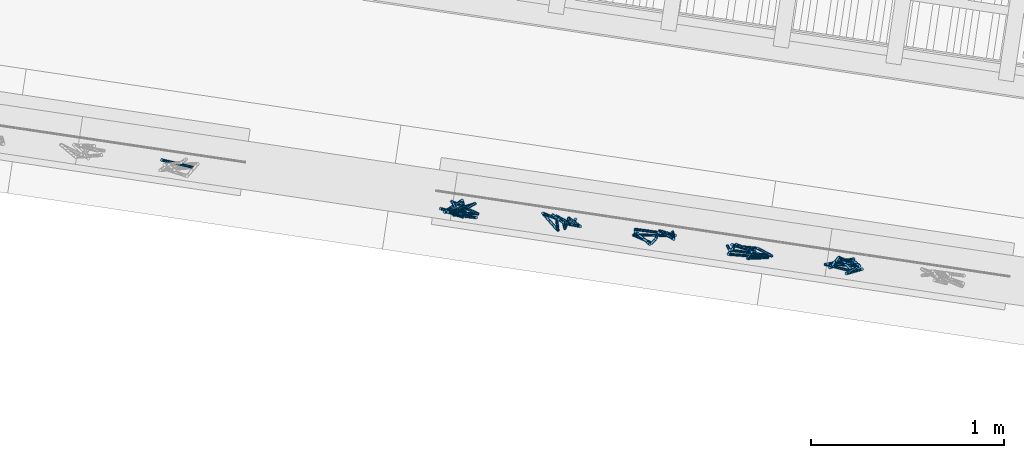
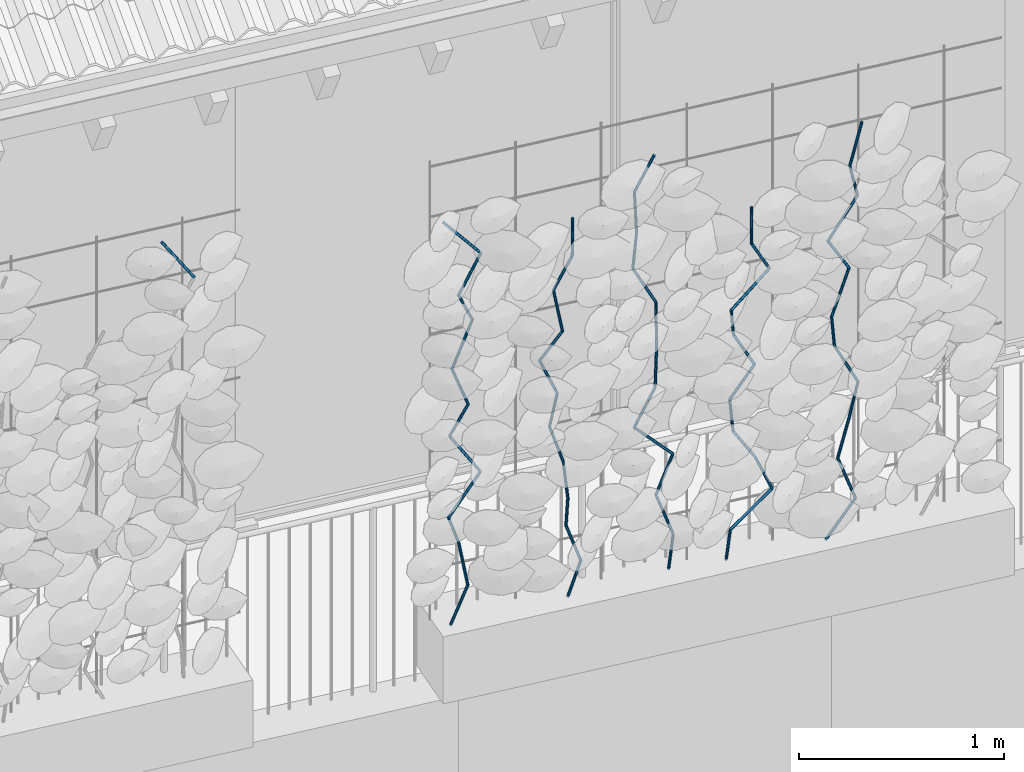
# One storey, part 107 of 128: 56 members, 1 element without a shape of its own.
"""IFC4 building model written with IfcOpenShell, lengths in metres."""

from ifc_helpers import new_model, si_unit, direction, frame, origin_with_axes, place, context, subcontext, project, spatial, circle, extrude, material, material_profile, profile_set, profile_usage, type_object, element, aggregate, save


model = new_model("IFC4")

# Units and contexts
model_context = context("Model", 3, precision=1e-05, world=origin_with_axes(), true_north=direction((0.0, 1.0)))
body_context = subcontext(model_context, "Body", "Model", "MODEL_VIEW")
ifc_project = project(units=[si_unit("VOLUMEUNIT", "CUBIC_METRE"), si_unit("LENGTHUNIT", "METRE"), si_unit("AREAUNIT", "SQUARE_METRE")], contexts=[model_context])

# Site, building, storey
site_placement = place(None, origin_with_axes())
site = spatial("IfcSite", under=ifc_project, at=site_placement, Name="Lares · Rua das Mercês · artigo 4771")
building_placement = place(site_placement, frame((15.0, 9.7, 13.9), z_axis=(0.0, 0.0, 1.0), x_axis=(0.989015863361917, -0.147809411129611, 0.0)))
building = spatial("IfcBuilding", under=site, at=building_placement, Name="Casa Sobreposta")
storey_placement = place(building_placement, origin_with_axes())
storey = spatial("IfcBuildingStorey", under=building, at=storey_placement, Name="00 · Habitação e estacionamento", Elevation=13.9)

# Assembly, members
assembly_placement = place(storey_placement, origin_with_axes())
assembly = element("IfcElementAssembly", 1, at=assembly_placement, inside=storey, Name="Fachada sul e pátio · estrutura e trepadeiras", ObjectType="LIVING_SHADE_TRELLIS", PredefinedType="USERDEFINED")
ifc_material = material(Name="Ramos de trepadeiras", Category="wood")
ifc_material_profile = material_profile(ifc_material, circle(Radius=0.0075))
ifc_profile_set = profile_set([ifc_material_profile], Name="D0.015")
ifc_profile_usage_1 = profile_usage(ifc_profile_set)
member_type = type_object("IfcMemberType", Name="D0.015 / vine_wood", PredefinedType="NOTDEFINED", material=ifc_profile_set)
member_1_placement = place(assembly_placement, frame((7.23474706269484, -1.67516306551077, 2.75997895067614), z_axis=(-0.561074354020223, 0.0463893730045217, 0.826464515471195), x_axis=(0.0823983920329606, 0.996599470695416, 0.0)))
member_1 = element("IfcMember", 2, at=member_1_placement, type_object=member_type, material=ifc_profile_usage_1, Name="Trepadeiras · ramo", context=body_context, shape_type="SweptSolid", body=[
    extrude(circle(Radius=0.0075), origin_with_axes(), (0.0, 0.0, 1.0), 0.29160101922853),
])
ifc_profile_usage_2 = profile_usage(ifc_profile_set)
member_2_placement = place(assembly_placement, frame((8.57260770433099, -1.69487939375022, 0.35), z_axis=(0.387109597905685, -0.00148647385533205, 0.922032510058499), x_axis=(-0.00383990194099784, -0.999992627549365, 0.0)))
member_2 = element("IfcMember", 3, at=member_2_placement, type_object=member_type, material=ifc_profile_usage_2, Name="Trepadeiras · ramo", context=body_context, shape_type="SweptSolid", body=[
    extrude(circle(Radius=0.0075), origin_with_axes(), (0.0, 0.0, 1.0), 0.23837097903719),
])
ifc_profile_usage_3 = profile_usage(ifc_profile_set)
member_3_placement = place(assembly_placement, frame((8.66488339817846, -1.69523372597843, 0.569785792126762), z_axis=(-0.111886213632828, 0.247324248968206, 0.962451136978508), x_axis=(0.911105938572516, 0.412172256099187, 0.0)))
member_3 = element("IfcMember", 4, at=member_3_placement, type_object=member_type, material=ifc_profile_usage_3, Name="Trepadeiras · ramo", context=body_context, shape_type="SweptSolid", body=[
    extrude(circle(Radius=0.0075), origin_with_axes(), (0.0, 0.0, 1.0), 0.228360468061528),
])
ifc_profile_usage_4 = profile_usage(ifc_profile_set)
member_4_placement = place(assembly_placement, frame((8.63933301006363, -1.63875464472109, 0.789571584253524), z_axis=(-0.334534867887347, -0.296332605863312, 0.894580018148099), x_axis=(-0.663073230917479, 0.748554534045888, 0.0)))
member_4 = element("IfcMember", 5, at=member_4_placement, type_object=member_type, material=ifc_profile_usage_4, Name="Trepadeiras · ramo", context=body_context, shape_type="SweptSolid", body=[
    extrude(circle(Radius=0.0075), origin_with_axes(), (0.0, 0.0, 1.0), 0.245686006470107),
])
ifc_profile_usage_5 = profile_usage(ifc_profile_set)
member_5_placement = place(assembly_placement, frame((8.55714247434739, -1.71155941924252, 1.00935737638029), z_axis=(0.619826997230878, 0.0569296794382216, 0.782670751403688), x_axis=(0.0914627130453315, -0.99580850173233, 0.0)))
member_5 = element("IfcMember", 6, at=member_5_placement, type_object=member_type, material=ifc_profile_usage_5, Name="Trepadeiras · ramo", context=body_context, shape_type="SweptSolid", body=[
    extrude(circle(Radius=0.0075), origin_with_axes(), (0.0, 0.0, 1.0), 0.280815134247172),
])
ifc_profile_usage_6 = profile_usage(ifc_profile_set)
member_6_placement = place(assembly_placement, frame((8.7311992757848, -1.69557270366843, 1.22914316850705), z_axis=(-0.543524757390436, 0.163952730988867, 0.823225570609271), x_axis=(0.288794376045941, 0.957391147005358, 0.0)))
member_6 = element("IfcMember", 7, at=member_6_placement, type_object=member_type, material=ifc_profile_usage_6, Name="Trepadeiras · ramo", context=body_context, shape_type="SweptSolid", body=[
    extrude(circle(Radius=0.0075), origin_with_axes(), (0.0, 0.0, 1.0), 0.266981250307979),
])
ifc_profile_usage_7 = profile_usage(ifc_profile_set)
member_7_placement = place(assembly_placement, frame((8.58608835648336, -1.65180039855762, 1.44892896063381), z_axis=(0.287938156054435, -0.297150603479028, 0.910380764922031), x_axis=(-0.718151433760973, -0.69588685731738, 0.0)))
member_7 = element("IfcMember", 8, at=member_7_placement, type_object=member_type, material=ifc_profile_usage_7, Name="Trepadeiras · ramo", context=body_context, shape_type="SweptSolid", body=[
    extrude(circle(Radius=0.0075), origin_with_axes(), (0.0, 0.0, 1.0), 0.241421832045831),
])
ifc_profile_usage_8 = profile_usage(ifc_profile_set)
member_8_placement = place(assembly_placement, frame((8.65560291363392, -1.72353904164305, 1.66871475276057), z_axis=(-0.339136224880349, 0.0610326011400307, 0.938755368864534), x_axis=(0.177119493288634, 0.9841893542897, 0.0)))
member_8 = element("IfcMember", 9, at=member_8_placement, type_object=member_type, material=ifc_profile_usage_8, Name="Trepadeiras · ramo", context=body_context, shape_type="SweptSolid", body=[
    extrude(circle(Radius=0.0075), origin_with_axes(), (0.0, 0.0, 1.0), 0.234124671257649),
])
ifc_profile_usage_9 = profile_usage(ifc_profile_set)
member_9_placement = place(assembly_placement, frame((8.57620275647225, -1.70924980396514, 1.88850054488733), z_axis=(0.500498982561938, 0.242565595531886, 0.831061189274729), x_axis=(0.436127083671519, -0.899885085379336, 0.0)))
member_9 = element("IfcMember", 10, at=member_9_placement, type_object=member_type, material=ifc_profile_usage_9, Name="Trepadeiras · ramo", context=body_context, shape_type="SweptSolid", body=[
    extrude(circle(Radius=0.0075), origin_with_axes(), (0.0, 0.0, 1.0), 0.264464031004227),
])
ifc_profile_usage_10 = profile_usage(ifc_profile_set)
member_10_placement = place(assembly_placement, frame((8.70856673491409, -1.64509992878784, 2.1082863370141), z_axis=(-0.401855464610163, -0.29322403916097, 0.867485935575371), x_axis=(-0.589440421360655, 0.807811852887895, 2.42004269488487e-17)))
member_10 = element("IfcMember", 11, at=member_10_placement, type_object=member_type, material=ifc_profile_usage_10, Name="Trepadeiras · ramo", context=body_context, shape_type="SweptSolid", body=[
    extrude(circle(Radius=0.0075), origin_with_axes(), (0.0, 0.0, 1.0), 0.253359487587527),
])
ifc_profile_usage_11 = profile_usage(ifc_profile_set)
member_11_placement = place(assembly_placement, frame((8.60675284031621, -1.719391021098, 2.32807212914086), z_axis=(0.474109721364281, 0.0126002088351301, 0.880375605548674), x_axis=(0.026567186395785, -0.999647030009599, 0.0)))
member_11 = element("IfcMember", 12, at=member_11_placement, type_object=member_type, material=ifc_profile_usage_11, Name="Trepadeiras · ramo", context=body_context, shape_type="SweptSolid", body=[
    extrude(circle(Radius=0.0075), origin_with_axes(), (0.0, 0.0, 1.0), 0.249650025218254),
])
ifc_profile_usage_12 = profile_usage(ifc_profile_set)
member_12_placement = place(assembly_placement, frame((8.72511434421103, -1.71624537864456, 2.54785792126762), z_axis=(-0.653038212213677, 0.0653463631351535, 0.754500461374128), x_axis=(0.0995678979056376, 0.995030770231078, 0.0)))
member_12 = element("IfcMember", 13, at=member_12_placement, type_object=member_type, material=ifc_profile_usage_12, Name="Trepadeiras · ramo", context=body_context, shape_type="SweptSolid", body=[
    extrude(circle(Radius=0.0075), origin_with_axes(), (0.0, 0.0, 1.0), 0.291299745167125),
])
ifc_profile_usage_13 = profile_usage(ifc_profile_set)
member_13_placement = place(assembly_placement, frame((9.19555170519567, -1.67878128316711, 0.35), z_axis=(0.318258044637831, -0.012888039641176, 0.947916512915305), x_axis=(-0.0404624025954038, -0.9991810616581, 2.58128021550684e-18)))
member_13 = element("IfcMember", 14, at=member_13_placement, type_object=member_type, material=ifc_profile_usage_13, Name="Trepadeiras · ramo", context=body_context, shape_type="SweptSolid", body=[
    extrude(circle(Radius=0.0075), origin_with_axes(), (0.0, 0.0, 1.0), 0.214174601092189),
])
ifc_profile_usage_14 = profile_usage(ifc_profile_set)
member_14_placement = place(assembly_placement, frame((9.26371449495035, -1.68154157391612, 0.553019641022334), z_axis=(-0.299327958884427, 0.157242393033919, 0.941104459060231), x_axis=(0.465054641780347, 0.885281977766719, 0.0)))
member_14 = element("IfcMember", 15, at=member_14_placement, type_object=member_type, material=ifc_profile_usage_14, Name="Trepadeiras · ramo", context=body_context, shape_type="SweptSolid", body=[
    extrude(circle(Radius=0.0075), origin_with_axes(), (0.0, 0.0, 1.0), 0.215724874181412),
])
ifc_profile_usage_15 = profile_usage(ifc_profile_set)
member_15_placement = place(assembly_placement, frame((9.19914200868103, -1.64762047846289, 0.756039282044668), z_axis=(-0.058883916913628, -0.269381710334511, 0.961231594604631), x_axis=(-0.976932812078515, 0.213546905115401, 0.0)))
member_15 = element("IfcMember", 16, at=member_15_placement, type_object=member_type, material=ifc_profile_usage_15, Name="Trepadeiras · ramo", context=body_context, shape_type="SweptSolid", body=[
    extrude(circle(Radius=0.0075), origin_with_axes(), (0.0, 0.0, 1.0), 0.211207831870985),
])
ifc_profile_usage_16 = profile_usage(ifc_profile_set)
member_16_placement = place(assembly_placement, frame((9.18670526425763, -1.70451600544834, 0.959058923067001), z_axis=(-0.0618656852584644, 0.149417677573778, 0.986836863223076), x_axis=(0.923934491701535, 0.382550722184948, 0.0)))
member_16 = element("IfcMember", 17, at=member_16_placement, type_object=member_type, material=ifc_profile_usage_16, Name="Trepadeiras · ramo", context=body_context, shape_type="SweptSolid", body=[
    extrude(circle(Radius=0.0075), origin_with_axes(), (0.0, 0.0, 1.0), 0.205727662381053),
])
ifc_profile_usage_17 = profile_usage(ifc_profile_set)
member_17_placement = place(assembly_placement, frame((9.17397778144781, -1.67377665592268, 1.16207856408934), z_axis=(-0.279521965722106, 0.13950094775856, 0.949951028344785), x_axis=(0.446547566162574, 0.894759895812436, 0.0)))
member_17 = element("IfcMember", 18, at=member_17_placement, type_object=member_type, material=ifc_profile_usage_17, Name="Trepadeiras · ramo", context=body_context, shape_type="SweptSolid", body=[
    extrude(circle(Radius=0.0075), origin_with_axes(), (0.0, 0.0, 1.0), 0.213715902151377),
])
ifc_profile_usage_18 = profile_usage(ifc_profile_set)
member_18_placement = place(assembly_placement, frame((9.11423949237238, -1.64396308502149, 1.36509820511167), z_axis=(0.161935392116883, -0.0887500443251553, 0.982802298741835), x_axis=(-0.480610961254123, -0.876933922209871, 0.0)))
member_18 = element("IfcMember", 19, at=member_18_placement, type_object=member_type, material=ifc_profile_usage_18, Name="Trepadeiras · ramo", context=body_context, shape_type="SweptSolid", body=[
    extrude(circle(Radius=0.0075), origin_with_axes(), (0.0, 0.0, 1.0), 0.206572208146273),
])
ifc_profile_usage_19 = profile_usage(ifc_profile_set)
member_19_placement = place(assembly_placement, frame((9.147690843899, -1.66229637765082, 1.568117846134), z_axis=(-0.385174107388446, 0.0889285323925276, 0.918549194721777), x_axis=(0.224960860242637, 0.974367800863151, 0.0)))
member_19 = element("IfcMember", 20, at=member_19_placement, type_object=member_type, material=ifc_profile_usage_19, Name="Trepadeiras · ramo", context=body_context, shape_type="SweptSolid", body=[
    extrude(circle(Radius=0.0075), origin_with_axes(), (0.0, 0.0, 1.0), 0.221022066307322),
])
ifc_profile_usage_20 = profile_usage(ifc_profile_set)
member_20_placement = place(assembly_placement, frame((9.06255886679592, -1.64264120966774, 1.77113748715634), z_axis=(0.383724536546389, -0.325141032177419, 0.864314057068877), x_axis=(-0.64646469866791, -0.762943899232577, 0.0)))
member_20 = element("IfcMember", 21, at=member_20_placement, type_object=member_type, material=ifc_profile_usage_20, Name="Trepadeiras · ramo", context=body_context, shape_type="SweptSolid", body=[
    extrude(circle(Radius=0.0075), origin_with_axes(), (0.0, 0.0, 1.0), 0.234891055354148),
])
ifc_profile_usage_21 = profile_usage(ifc_profile_set)
member_21_placement = place(assembly_placement, frame((9.15269232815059, -1.71901392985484, 1.97415712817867), z_axis=(-0.0885627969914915, 0.334741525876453, 0.93813897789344), x_axis=(0.966737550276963, 0.255770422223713, 0.0)))
member_21 = element("IfcMember", 22, at=member_21_placement, type_object=member_type, material=ifc_profile_usage_21, Name="Trepadeiras · ramo", context=body_context, shape_type="SweptSolid", body=[
    extrude(circle(Radius=0.0075), origin_with_axes(), (0.0, 0.0, 1.0), 0.216406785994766),
])
ifc_profile_usage_22 = profile_usage(ifc_profile_set)
member_22_placement = place(assembly_placement, frame((9.13352673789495, -1.64657359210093, 2.177176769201), z_axis=(0.387667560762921, -0.142815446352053, 0.910668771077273), x_axis=(-0.34568523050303, -0.938350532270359, 0.0)))
member_22 = element("IfcMember", 23, at=member_22_placement, type_object=member_type, material=ifc_profile_usage_22, Name="Trepadeiras · ramo", context=body_context, shape_type="SweptSolid", body=[
    extrude(circle(Radius=0.0075), origin_with_axes(), (0.0, 0.0, 1.0), 0.222934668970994),
])
ifc_profile_usage_23 = profile_usage(ifc_profile_set)
member_23_placement = place(assembly_placement, frame((9.21995127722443, -1.67841210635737, 2.38019641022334), z_axis=(0.0696493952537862, 0.146990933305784, 0.986682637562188), x_axis=(0.903685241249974, -0.428197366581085, 0.0)))
member_23 = element("IfcMember", 24, at=member_23_placement, type_object=member_type, material=ifc_profile_usage_23, Name="Trepadeiras · ramo", context=body_context, shape_type="SweptSolid", body=[
    extrude(circle(Radius=0.0075), origin_with_axes(), (0.0, 0.0, 1.0), 0.205759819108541),
])
ifc_profile_usage_24 = profile_usage(ifc_profile_set)
member_24_placement = place(assembly_placement, frame((9.74112127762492, -1.63887906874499, 0.35), z_axis=(0.0453912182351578, -0.153199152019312, 0.987152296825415), x_axis=(-0.958800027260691, -0.28408186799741, 0.0)))
member_24 = element("IfcMember", 25, at=member_24_placement, type_object=member_type, material=ifc_profile_usage_24, Name="Trepadeiras · ramo", context=body_context, shape_type="SweptSolid", body=[
    extrude(circle(Radius=0.0075), origin_with_axes(), (0.0, 0.0, 1.0), 0.234813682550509),
])
ifc_profile_usage_25 = profile_usage(ifc_profile_set)
member_25_placement = place(assembly_placement, frame((9.75177975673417, -1.67485232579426, 0.581796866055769), z_axis=(-0.318166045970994, 0.127586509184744, 0.93941047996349), x_axis=(0.37219551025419, 0.928154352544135, 0.0)))
member_25 = element("IfcMember", 26, at=member_25_placement, type_object=member_type, material=ifc_profile_usage_25, Name="Trepadeiras · ramo", context=body_context, shape_type="SweptSolid", body=[
    extrude(circle(Radius=0.0075), origin_with_axes(), (0.0, 0.0, 1.0), 0.246747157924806),
])
ifc_profile_usage_26 = profile_usage(ifc_profile_set)
member_26_placement = place(assembly_placement, frame((9.67327318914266, -1.64337071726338, 0.813593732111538), z_axis=(0.340802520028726, -0.0476376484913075, 0.938927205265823), x_axis=(-0.138434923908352, -0.990371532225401, 0.0)))
member_26 = element("IfcMember", 27, at=member_26_placement, type_object=member_type, material=ifc_profile_usage_26, Name="Trepadeiras · ramo", context=body_context, shape_type="SweptSolid", body=[
    extrude(circle(Radius=0.0075), origin_with_axes(), (0.0, 0.0, 1.0), 0.246874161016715),
])
ifc_profile_usage_27 = profile_usage(ifc_profile_set)
member_27_placement = place(assembly_placement, frame((9.75740852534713, -1.65513122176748, 1.04539059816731), z_axis=(-0.676152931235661, -0.0943361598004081, 0.730696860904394), x_axis=(-0.138180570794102, 0.990407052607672, 0.0)))
member_27 = element("IfcMember", 28, at=member_27_placement, type_object=member_type, material=ifc_profile_usage_27, Name="Trepadeiras · ramo", context=body_context, shape_type="SweptSolid", body=[
    extrude(circle(Radius=0.0075), origin_with_axes(), (0.0, 0.0, 1.0), 0.317227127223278),
])
ifc_profile_usage_28 = profile_usage(ifc_profile_set)
member_28_placement = place(assembly_placement, frame((9.54291447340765, -1.68505721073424, 1.27718746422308), z_axis=(0.390104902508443, -0.1070347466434, 0.914528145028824), x_axis=(-0.264595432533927, -0.964359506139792, 0.0)))
member_28 = element("IfcMember", 29, at=member_28_placement, type_object=member_type, material=ifc_profile_usage_28, Name="Trepadeiras · ramo", context=body_context, shape_type="SweptSolid", body=[
    extrude(circle(Radius=0.0075), origin_with_axes(), (0.0, 0.0, 1.0), 0.253460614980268),
])
ifc_profile_usage_29 = profile_usage(ifc_profile_set)
member_29_placement = place(assembly_placement, frame((9.64179070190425, -1.71218630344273, 1.50898433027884), z_axis=(0.0748317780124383, 0.101112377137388, 0.992056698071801), x_axis=(0.803809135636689, -0.594887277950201, 0.0)))
member_29 = element("IfcMember", 30, at=member_29_placement, type_object=member_type, material=ifc_profile_usage_29, Name="Trepadeiras · ramo", context=body_context, shape_type="SweptSolid", body=[
    extrude(circle(Radius=0.0075), origin_with_axes(), (0.0, 0.0, 1.0), 0.23365284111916),
])
ifc_profile_usage_30 = profile_usage(ifc_profile_set)
member_30_placement = place(assembly_placement, frame((9.65927535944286, -1.68856110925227, 1.74078119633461), z_axis=(0.0400911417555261, 0.152524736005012, 0.987486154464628), x_axis=(0.967147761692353, -0.254214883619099, 0.0)))
member_30 = element("IfcMember", 31, at=member_30_placement, type_object=member_type, material=ifc_profile_usage_30, Name="Trepadeiras · ramo", context=body_context, shape_type="SweptSolid", body=[
    extrude(circle(Radius=0.0075), origin_with_axes(), (0.0, 0.0, 1.0), 0.234734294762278),
])
ifc_profile_usage_31 = profile_usage(ifc_profile_set)
member_31_placement = place(assembly_placement, frame((9.66868612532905, -1.65275832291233, 1.97257806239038), z_axis=(-0.463480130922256, -0.00724472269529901, 0.886077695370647), x_axis=(-0.01562923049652, 0.999877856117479, 0.0)))
member_31 = element("IfcMember", 32, at=member_31_placement, type_object=member_type, material=ifc_profile_usage_31, Name="Trepadeiras · ramo", context=body_context, shape_type="SweptSolid", body=[
    extrude(circle(Radius=0.0075), origin_with_axes(), (0.0, 0.0, 1.0), 0.261598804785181),
])
ifc_profile_usage_32 = profile_usage(ifc_profile_set)
member_32_placement = place(assembly_placement, frame((9.54744027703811, -1.65465353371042, 2.20437492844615), z_axis=(0.0328627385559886, -0.130763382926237, 0.990868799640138), x_axis=(-0.969841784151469, -0.243735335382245, 0.0)))
member_32 = element("IfcMember", 33, at=member_32_placement, type_object=member_type, material=ifc_profile_usage_32, Name="Trepadeiras · ramo", context=body_context, shape_type="SweptSolid", body=[
    extrude(circle(Radius=0.0075), origin_with_axes(), (0.0, 0.0, 1.0), 0.23393295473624),
])
ifc_profile_usage_33 = profile_usage(ifc_profile_set)
member_33_placement = place(assembly_placement, frame((9.55512795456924, -1.68524339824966, 2.43617179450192), z_axis=(-0.0170006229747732, 0.0806829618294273, 0.996594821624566), x_axis=(0.978513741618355, 0.206181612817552, 0.0)))
member_33 = element("IfcMember", 34, at=member_33_placement, type_object=member_type, material=ifc_profile_usage_33, Name="Trepadeiras · ramo", context=body_context, shape_type="SweptSolid", body=[
    extrude(circle(Radius=0.0075), origin_with_axes(), (0.0, 0.0, 1.0), 0.232588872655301),
])
ifc_profile_usage_34 = profile_usage(ifc_profile_set)
member_34_placement = place(assembly_placement, frame((9.5511737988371, -1.66647743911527, 2.66796866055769), z_axis=(0.327277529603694, -0.210771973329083, 0.92112137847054), x_axis=(-0.54144681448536, -0.840735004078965, 3.28382531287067e-17)))
member_34 = element("IfcMember", 35, at=member_34_placement, type_object=member_type, material=ifc_profile_usage_34, Name="Trepadeiras · ramo", context=body_context, shape_type="SweptSolid", body=[
    extrude(circle(Radius=0.0075), origin_with_axes(), (0.0, 0.0, 1.0), 0.251646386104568),
])
ifc_profile_usage_35 = profile_usage(ifc_profile_set)
member_35_placement = place(assembly_placement, frame((10.0322840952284, -1.66794075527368, 0.35), z_axis=(0.0734242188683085, -0.105281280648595, 0.991728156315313), x_axis=(-0.820228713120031, -0.572035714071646, 0.0)))
member_35 = element("IfcMember", 36, at=member_35_placement, type_object=member_type, material=ifc_profile_usage_35, Name="Trepadeiras · ramo", context=body_context, shape_type="SweptSolid", body=[
    extrude(circle(Radius=0.0075), origin_with_axes(), (0.0, 0.0, 1.0), 0.190846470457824),
])
ifc_profile_usage_36 = profile_usage(ifc_profile_set)
member_36_placement = place(assembly_placement, frame((10.0462968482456, -1.68803331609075, 0.539267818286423), z_axis=(0.758571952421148, 0.00704599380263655, 0.651551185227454), x_axis=(0.00928809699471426, -0.999956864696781, 0.0)))
member_36 = element("IfcMember", 37, at=member_36_placement, type_object=member_type, material=ifc_profile_usage_36, Name="Trepadeiras · ramo", context=body_context, shape_type="SweptSolid", body=[
    extrude(circle(Radius=0.0075), origin_with_axes(), (0.0, 0.0, 1.0), 0.290488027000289),
])
ifc_profile_usage_37 = profile_usage(ifc_profile_set)
member_37_placement = place(assembly_placement, frame((10.2666529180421, -1.68598653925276, 0.728535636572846), z_axis=(-0.377309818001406, 0.134851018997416, 0.916216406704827), x_axis=(0.336552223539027, 0.941664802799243, 0.0)))
member_37 = element("IfcMember", 38, at=member_37_placement, type_object=member_type, material=ifc_profile_usage_37, Name="Trepadeiras · ramo", context=body_context, shape_type="SweptSolid", body=[
    extrude(circle(Radius=0.0075), origin_with_axes(), (0.0, 0.0, 1.0), 0.206575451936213),
])
ifc_profile_usage_38 = profile_usage(ifc_profile_set)
member_38_placement = place(assembly_placement, frame((10.1887099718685, -1.65812962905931, 0.917803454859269), z_axis=(-0.530574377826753, -0.0264164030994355, 0.847226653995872), x_axis=(-0.049726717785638, 0.998762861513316, 0.0)))
member_38 = element("IfcMember", 39, at=member_38_placement, type_object=member_type, material=ifc_profile_usage_38, Name="Trepadeiras · ramo", context=body_context, shape_type="SweptSolid", body=[
    extrude(circle(Radius=0.0075), origin_with_axes(), (0.0, 0.0, 1.0), 0.223396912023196),
])
ifc_profile_usage_39 = profile_usage(ifc_profile_set)
member_39_placement = place(assembly_placement, frame((10.0701812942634, -1.66403097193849, 1.10707127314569), z_axis=(-0.0842012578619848, 0.0220395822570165, 0.996205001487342), x_axis=(0.253218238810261, 0.967409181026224, 0.0)))
member_39 = element("IfcMember", 40, at=member_39_placement, type_object=member_type, material=ifc_profile_usage_39, Name="Trepadeiras · ramo", context=body_context, shape_type="SweptSolid", body=[
    extrude(circle(Radius=0.0075), origin_with_axes(), (0.0, 0.0, 1.0), 0.189988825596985),
])
ifc_profile_usage_40 = profile_usage(ifc_profile_set)
member_40_placement = place(assembly_placement, frame((10.0541839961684, -1.65984369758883, 1.29633909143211), z_axis=(0.545007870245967, -0.0769728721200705, 0.834890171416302), x_axis=(-0.139844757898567, -0.990173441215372, 0.0)))
member_40 = element("IfcMember", 41, at=member_40_placement, type_object=member_type, material=ifc_profile_usage_40, Name="Trepadeiras · ramo", context=body_context, shape_type="SweptSolid", body=[
    extrude(circle(Radius=0.0075), origin_with_axes(), (0.0, 0.0, 1.0), 0.226697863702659),
])
ifc_profile_usage_41 = profile_usage(ifc_profile_set)
member_41_placement = place(assembly_placement, frame((10.1777361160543, -1.67729328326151, 1.48560690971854), z_axis=(-0.472023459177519, 0.103510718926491, 0.875488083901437), x_axis=(0.2142016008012, 0.976789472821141, 0.0)))
member_41 = element("IfcMember", 42, at=member_41_placement, type_object=member_type, material=ifc_profile_usage_41, Name="Trepadeiras · ramo", context=body_context, shape_type="SweptSolid", body=[
    extrude(circle(Radius=0.0075), origin_with_axes(), (0.0, 0.0, 1.0), 0.216185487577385),
])
ifc_profile_usage_42 = profile_usage(ifc_profile_set)
member_42_placement = place(assembly_placement, frame((10.075691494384, -1.6549157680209, 1.67487472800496), z_axis=(-0.167670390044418, -0.277529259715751, 0.945972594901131), x_axis=(-0.855920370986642, 0.517107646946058, 0.0)))
member_42 = element("IfcMember", 43, at=member_42_placement, type_object=member_type, material=ifc_profile_usage_42, Name="Trepadeiras · ramo", context=body_context, shape_type="SweptSolid", body=[
    extrude(circle(Radius=0.0075), origin_with_axes(), (0.0, 0.0, 1.0), 0.200077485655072),
])
ifc_profile_usage_43 = profile_usage(ifc_profile_set)
member_43_placement = place(assembly_placement, frame((10.0421444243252, -1.71044312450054, 1.86414254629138), z_axis=(0.735404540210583, 0.0473846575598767, 0.675969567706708), x_axis=(0.0643001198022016, -0.997930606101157, 0.0)))
member_43 = element("IfcMember", 44, at=member_43_placement, type_object=member_type, material=ifc_profile_usage_43, Name="Trepadeiras · ramo", context=body_context, shape_type="SweptSolid", body=[
    extrude(circle(Radius=0.0075), origin_with_axes(), (0.0, 0.0, 1.0), 0.279994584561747),
])
ifc_profile_usage_44 = profile_usage(ifc_profile_set)
member_44_placement = place(assembly_placement, frame((10.2480537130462, -1.69717567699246, 2.05341036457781), z_axis=(-0.475026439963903, -0.0921827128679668, 0.875129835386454), x_axis=(-0.190504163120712, 0.981686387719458, 0.0)))
member_44 = element("IfcMember", 45, at=member_44_placement, type_object=member_type, material=ifc_profile_usage_44, Name="Trepadeiras · ramo", context=body_context, shape_type="SweptSolid", body=[
    extrude(circle(Radius=0.0075), origin_with_axes(), (0.0, 0.0, 1.0), 0.216273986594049),
])
ifc_profile_usage_45 = profile_usage(ifc_profile_set)
member_45_placement = place(assembly_placement, frame((10.1453178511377, -1.71711239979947, 2.24267818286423), z_axis=(0.0786417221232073, 0.18707443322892, 0.979192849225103), x_axis=(0.92185809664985, -0.387527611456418, 0.0)))
member_45 = element("IfcMember", 46, at=member_45_placement, type_object=member_type, material=ifc_profile_usage_45, Name="Trepadeiras · ramo", context=body_context, shape_type="SweptSolid", body=[
    extrude(circle(Radius=0.0075), origin_with_axes(), (0.0, 0.0, 1.0), 0.193289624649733),
])
ifc_profile_usage_46 = profile_usage(ifc_profile_set)
member_46_placement = place(assembly_placement, frame((10.5459835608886, -1.68860823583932, 0.35), z_axis=(0.563765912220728, -0.054509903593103, 0.824133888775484), x_axis=(-0.0962400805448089, -0.995358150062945, 0.0)))
member_46 = element("IfcMember", 47, at=member_46_placement, type_object=member_type, material=ifc_profile_usage_46, Name="Trepadeiras · ramo", context=body_context, shape_type="SweptSolid", body=[
    extrude(circle(Radius=0.0075), origin_with_axes(), (0.0, 0.0, 1.0), 0.269569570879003),
])
ifc_profile_usage_47 = profile_usage(ifc_profile_set)
member_47_placement = place(assembly_placement, frame((10.6979576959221, -1.70330244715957, 0.572161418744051), z_axis=(-0.306550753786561, 0.215334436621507, 0.927177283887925), x_axis=(0.574803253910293, 0.818291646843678, 0.0)))
member_47 = element("IfcMember", 48, at=member_47_placement, type_object=member_type, material=ifc_profile_usage_47, Name="Trepadeiras · ramo", context=body_context, shape_type="SweptSolid", body=[
    extrude(circle(Radius=0.0075), origin_with_axes(), (0.0, 0.0, 1.0), 0.239610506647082),
])
ifc_profile_usage_48 = profile_usage(ifc_profile_set)
member_48_placement = place(assembly_placement, frame((10.6245049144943, -1.65170605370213, 0.794322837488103), z_axis=(0.268244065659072, 0.0205784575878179, 0.963131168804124), x_axis=(0.0764906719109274, -0.997070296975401, 0.0)))
member_48 = element("IfcMember", 49, at=member_48_placement, type_object=member_type, material=ifc_profile_usage_48, Name="Trepadeiras · ramo", context=body_context, shape_type="SweptSolid", body=[
    extrude(circle(Radius=0.0075), origin_with_axes(), (0.0, 0.0, 1.0), 0.230665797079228),
])
ifc_profile_usage_49 = profile_usage(ifc_profile_set)
member_49_placement = place(assembly_placement, frame((10.6863796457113, -1.64695930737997, 1.01648425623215), z_axis=(0.167091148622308, -0.102667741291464, 0.980581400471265), x_axis=(-0.523514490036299, -0.85201677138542, 0.0)))
member_49 = element("IfcMember", 50, at=member_49_placement, type_object=member_type, material=ifc_profile_usage_49, Name="Trepadeiras · ramo", context=body_context, shape_type="SweptSolid", body=[
    extrude(circle(Radius=0.0075), origin_with_axes(), (0.0, 0.0, 1.0), 0.22656091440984),
])
ifc_profile_usage_50 = profile_usage(ifc_profile_set)
member_50_placement = place(assembly_placement, frame((10.724235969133, -1.67021980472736, 1.23864567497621), z_axis=(-0.450256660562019, 0.110456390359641, 0.886040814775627), x_axis=(0.238254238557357, 0.971202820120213, 0.0)))
member_50 = element("IfcMember", 51, at=member_50_placement, type_object=member_type, material=ifc_profile_usage_50, Name="Trepadeiras · ramo", context=body_context, shape_type="SweptSolid", body=[
    extrude(circle(Radius=0.0075), origin_with_axes(), (0.0, 0.0, 1.0), 0.250734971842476),
])
ifc_profile_usage_51 = profile_usage(ifc_profile_set)
member_51_placement = place(assembly_placement, frame((10.6113408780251, -1.64252452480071, 1.46080709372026), z_axis=(-0.165076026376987, -0.254000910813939, 0.953012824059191), x_axis=(-0.838480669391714, 0.544931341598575, 0.0)))
member_51 = element("IfcMember", 52, at=member_51_placement, type_object=member_type, material=ifc_profile_usage_51, Name="Trepadeiras · ramo", context=body_context, shape_type="SweptSolid", body=[
    extrude(circle(Radius=0.0075), origin_with_axes(), (0.0, 0.0, 1.0), 0.23311482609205),
])
ifc_profile_usage_52 = profile_usage(ifc_profile_set)
member_52_placement = place(assembly_placement, frame((10.5728592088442, -1.70173590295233, 1.68296851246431), z_axis=(0.450323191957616, 0.243569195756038, 0.859001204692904), x_axis=(0.475745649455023, -0.879582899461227, 0.0)))
member_52 = element("IfcMember", 53, at=member_52_placement, type_object=member_type, material=ifc_profile_usage_52, Name="Trepadeiras · ramo", context=body_context, shape_type="SweptSolid", body=[
    extrude(circle(Radius=0.0075), origin_with_axes(), (0.0, 0.0, 1.0), 0.258627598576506),
])
ifc_profile_usage_53 = profile_usage(ifc_profile_set)
member_53_placement = place(assembly_placement, frame((10.6893252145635, -1.63874218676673, 1.90512993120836), z_axis=(-0.494124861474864, -0.17570853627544, 0.851450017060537), x_axis=(-0.33504301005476, 0.942202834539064, 0.0)))
member_53 = element("IfcMember", 54, at=member_53_placement, type_object=member_type, material=ifc_profile_usage_53, Name="Trepadeiras · ramo", context=body_context, shape_type="SweptSolid", body=[
    extrude(circle(Radius=0.0075), origin_with_axes(), (0.0, 0.0, 1.0), 0.260921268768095),
])
ifc_profile_usage_54 = profile_usage(ifc_profile_set)
member_54_placement = place(assembly_placement, frame((10.5603975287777, -1.68458828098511, 2.12729134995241), z_axis=(0.588590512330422, 0.0547468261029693, 0.806575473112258), x_axis=(0.0926136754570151, -0.99570211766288, 0.0)))
member_54 = element("IfcMember", 55, at=member_54_placement, type_object=member_type, material=ifc_profile_usage_54, Name="Trepadeiras · ramo", context=body_context, shape_type="SweptSolid", body=[
    extrude(circle(Radius=0.0075), origin_with_axes(), (0.0, 0.0, 1.0), 0.275437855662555),
])
ifc_profile_usage_55 = profile_usage(ifc_profile_set)
member_55_placement = place(assembly_placement, frame((10.7225176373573, -1.66950893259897, 2.34945276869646), z_axis=(-0.259159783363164, -0.212743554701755, 0.942112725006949), x_axis=(-0.634494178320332, 0.77292764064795, -1.94968453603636e-17)))
member_55 = element("IfcMember", 56, at=member_55_placement, type_object=member_type, material=ifc_profile_usage_55, Name="Trepadeiras · ramo", context=body_context, shape_type="SweptSolid", body=[
    extrude(circle(Radius=0.0075), origin_with_axes(), (0.0, 0.0, 1.0), 0.235811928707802),
])
ifc_profile_usage_56 = profile_usage(ifc_profile_set)
member_56_placement = place(assembly_placement, frame((10.6614046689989, -1.71967640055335, 2.57161418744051), z_axis=(0.326421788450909, 0.146883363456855, 0.933741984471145), x_axis=(0.410349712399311, -0.911928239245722, 0.0)))
member_56 = element("IfcMember", 57, at=member_56_placement, type_object=member_type, material=ifc_profile_usage_56, Name="Trepadeiras · ramo", context=body_context, shape_type="SweptSolid", body=[
    extrude(circle(Radius=0.0075), origin_with_axes(), (0.0, 0.0, 1.0), 0.237925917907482),
])
aggregate(assembly, [member_1, member_2, member_3, member_4, member_5, member_6, member_7, member_8, member_9, member_10, member_11, member_12, member_13, member_14, member_15, member_16, member_17, member_18, member_19, member_20, member_21, member_22, member_23, member_24, member_25, member_26, member_27, member_28, member_29, member_30, member_31, member_32, member_33, member_34, member_35, member_36, member_37, member_38, member_39, member_40, member_41, member_42, member_43, member_44, member_45, member_46, member_47, member_48, member_49, member_50, member_51, member_52, member_53, member_54, member_55, member_56])

save(model, "model.ifc")
